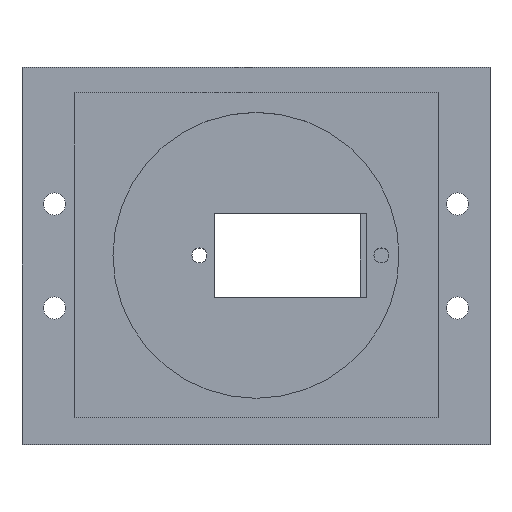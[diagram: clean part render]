
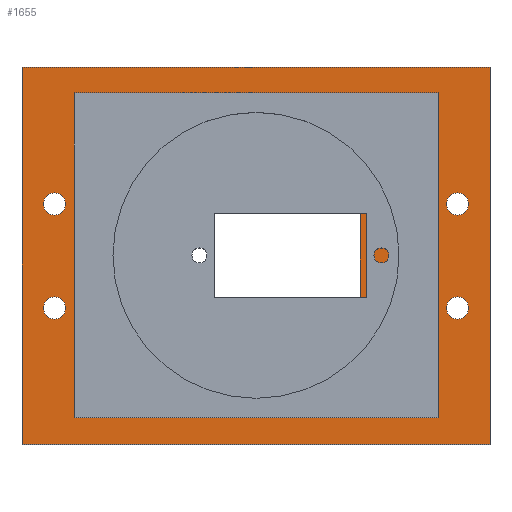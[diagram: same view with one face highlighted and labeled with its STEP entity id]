
A CAD part, top view. The second image highlights one B-rep face of the part: STEP entity #1655.
In plain terms, the highlighted planar face has unit normal (0, 0, 1).
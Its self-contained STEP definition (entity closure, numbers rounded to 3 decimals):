
#1275 = EDGE_CURVE('',#1276,#1278,#1280,.T.);
#1276 = VERTEX_POINT('',#1277);
#1277 = CARTESIAN_POINT('',(19.,5.,4.));
#1278 = VERTEX_POINT('',#1279);
#1279 = CARTESIAN_POINT('',(9.,5.,4.));
#1280 = LINE('',#1281,#1282);
#1281 = CARTESIAN_POINT('',(4.5,5.,4.));
#1282 = VECTOR('',#1283,1.);
#1283 = DIRECTION('',(-1.,-0.,0.));
#1307 = EDGE_CURVE('',#1276,#1308,#1310,.T.);
#1308 = VERTEX_POINT('',#1309);
#1309 = CARTESIAN_POINT('',(19.,15.,4.));
#1310 = LINE('',#1311,#1312);
#1311 = CARTESIAN_POINT('',(19.,2.5,4.));
#1312 = VECTOR('',#1313,1.);
#1313 = DIRECTION('',(-0.,1.,0.));
#1331 = EDGE_CURVE('',#1278,#1332,#1334,.T.);
#1332 = VERTEX_POINT('',#1333);
#1333 = CARTESIAN_POINT('',(9.,15.,4.));
#1334 = LINE('',#1335,#1336);
#1335 = CARTESIAN_POINT('',(9.,2.5,4.));
#1336 = VECTOR('',#1337,1.);
#1337 = DIRECTION('',(-0.,1.,0.));
#1354 = EDGE_CURVE('',#1308,#1332,#1355,.T.);
#1355 = LINE('',#1356,#1357);
#1356 = CARTESIAN_POINT('',(4.5,15.,4.));
#1357 = VECTOR('',#1358,1.);
#1358 = DIRECTION('',(-1.,-0.,0.));
#1371 = EDGE_CURVE('',#1372,#1374,#1376,.T.);
#1372 = VERTEX_POINT('',#1373);
#1373 = CARTESIAN_POINT('',(63.,5.,4.));
#1374 = VERTEX_POINT('',#1375);
#1375 = CARTESIAN_POINT('',(53.,5.,4.));
#1376 = LINE('',#1377,#1378);
#1377 = CARTESIAN_POINT('',(26.5,5.,4.));
#1378 = VECTOR('',#1379,1.);
#1379 = DIRECTION('',(-1.,-0.,0.));
#1403 = EDGE_CURVE('',#1372,#1404,#1406,.T.);
#1404 = VERTEX_POINT('',#1405);
#1405 = CARTESIAN_POINT('',(63.,15.,4.));
#1406 = LINE('',#1407,#1408);
#1407 = CARTESIAN_POINT('',(63.,2.5,4.));
#1408 = VECTOR('',#1409,1.);
#1409 = DIRECTION('',(-0.,1.,0.));
#1427 = EDGE_CURVE('',#1374,#1428,#1430,.T.);
#1428 = VERTEX_POINT('',#1429);
#1429 = CARTESIAN_POINT('',(53.,15.,4.));
#1430 = LINE('',#1431,#1432);
#1431 = CARTESIAN_POINT('',(53.,2.5,4.));
#1432 = VECTOR('',#1433,1.);
#1433 = DIRECTION('',(-0.,1.,0.));
#1450 = EDGE_CURVE('',#1404,#1428,#1451,.T.);
#1451 = LINE('',#1452,#1453);
#1452 = CARTESIAN_POINT('',(26.5,15.,4.));
#1453 = VECTOR('',#1454,1.);
#1454 = DIRECTION('',(-1.,-0.,0.));
#1467 = EDGE_CURVE('',#1468,#1470,#1472,.T.);
#1468 = VERTEX_POINT('',#1469);
#1469 = CARTESIAN_POINT('',(19.,43.,4.));
#1470 = VERTEX_POINT('',#1471);
#1471 = CARTESIAN_POINT('',(9.,43.,4.));
#1472 = LINE('',#1473,#1474);
#1473 = CARTESIAN_POINT('',(4.5,43.,4.));
#1474 = VECTOR('',#1475,1.);
#1475 = DIRECTION('',(-1.,-0.,0.));
#1499 = EDGE_CURVE('',#1468,#1500,#1502,.T.);
#1500 = VERTEX_POINT('',#1501);
#1501 = CARTESIAN_POINT('',(19.,53.,4.));
#1502 = LINE('',#1503,#1504);
#1503 = CARTESIAN_POINT('',(19.,21.5,4.));
#1504 = VECTOR('',#1505,1.);
#1505 = DIRECTION('',(-0.,1.,0.));
#1523 = EDGE_CURVE('',#1470,#1524,#1526,.T.);
#1524 = VERTEX_POINT('',#1525);
#1525 = CARTESIAN_POINT('',(9.,53.,4.));
#1526 = LINE('',#1527,#1528);
#1527 = CARTESIAN_POINT('',(9.,21.5,4.));
#1528 = VECTOR('',#1529,1.);
#1529 = DIRECTION('',(-0.,1.,0.));
#1546 = EDGE_CURVE('',#1500,#1524,#1547,.T.);
#1547 = LINE('',#1548,#1549);
#1548 = CARTESIAN_POINT('',(4.5,53.,4.));
#1549 = VECTOR('',#1550,1.);
#1550 = DIRECTION('',(-1.,-0.,0.));
#1563 = EDGE_CURVE('',#1564,#1566,#1568,.T.);
#1564 = VERTEX_POINT('',#1565);
#1565 = CARTESIAN_POINT('',(63.,43.,4.));
#1566 = VERTEX_POINT('',#1567);
#1567 = CARTESIAN_POINT('',(53.,43.,4.));
#1568 = LINE('',#1569,#1570);
#1569 = CARTESIAN_POINT('',(26.5,43.,4.));
#1570 = VECTOR('',#1571,1.);
#1571 = DIRECTION('',(-1.,-0.,0.));
#1595 = EDGE_CURVE('',#1564,#1596,#1598,.T.);
#1596 = VERTEX_POINT('',#1597);
#1597 = CARTESIAN_POINT('',(63.,53.,4.));
#1598 = LINE('',#1599,#1600);
#1599 = CARTESIAN_POINT('',(63.,21.5,4.));
#1600 = VECTOR('',#1601,1.);
#1601 = DIRECTION('',(-0.,1.,0.));
#1618 = EDGE_CURVE('',#1596,#1619,#1621,.T.);
#1619 = VERTEX_POINT('',#1620);
#1620 = CARTESIAN_POINT('',(53.,53.,4.));
#1621 = LINE('',#1622,#1623);
#1622 = CARTESIAN_POINT('',(26.5,53.,4.));
#1623 = VECTOR('',#1624,1.);
#1624 = DIRECTION('',(-1.,-0.,0.));
#1643 = EDGE_CURVE('',#1566,#1619,#1644,.T.);
#1644 = LINE('',#1645,#1646);
#1645 = CARTESIAN_POINT('',(53.,21.5,4.));
#1646 = VECTOR('',#1647,1.);
#1647 = DIRECTION('',(-0.,1.,0.));
#1655 = ADVANCED_FACE('',(#1656,#1690,#1696,#1707,#1713,#1724,#1735,
    #1741,#1775,#1786),#1792,.T.);
#1656 = FACE_BOUND('',#1657,.T.);
#1657 = EDGE_LOOP('',(#1658,#1668,#1676,#1684));
#1658 = ORIENTED_EDGE('',*,*,#1659,.F.);
#1659 = EDGE_CURVE('',#1660,#1662,#1664,.T.);
#1660 = VERTEX_POINT('',#1661);
#1661 = CARTESIAN_POINT('',(0.,0.,4.));
#1662 = VERTEX_POINT('',#1663);
#1663 = CARTESIAN_POINT('',(0.,58.,4.));
#1664 = LINE('',#1665,#1666);
#1665 = CARTESIAN_POINT('',(0.,0.,4.));
#1666 = VECTOR('',#1667,1.);
#1667 = DIRECTION('',(-0.,1.,0.));
#1668 = ORIENTED_EDGE('',*,*,#1669,.T.);
#1669 = EDGE_CURVE('',#1660,#1670,#1672,.T.);
#1670 = VERTEX_POINT('',#1671);
#1671 = CARTESIAN_POINT('',(72.,0.,4.));
#1672 = LINE('',#1673,#1674);
#1673 = CARTESIAN_POINT('',(0.,0.,4.));
#1674 = VECTOR('',#1675,1.);
#1675 = DIRECTION('',(1.,0.,-0.));
#1676 = ORIENTED_EDGE('',*,*,#1677,.T.);
#1677 = EDGE_CURVE('',#1670,#1678,#1680,.T.);
#1678 = VERTEX_POINT('',#1679);
#1679 = CARTESIAN_POINT('',(72.,58.,4.));
#1680 = LINE('',#1681,#1682);
#1681 = CARTESIAN_POINT('',(72.,0.,4.));
#1682 = VECTOR('',#1683,1.);
#1683 = DIRECTION('',(-0.,1.,0.));
#1684 = ORIENTED_EDGE('',*,*,#1685,.F.);
#1685 = EDGE_CURVE('',#1662,#1678,#1686,.T.);
#1686 = LINE('',#1687,#1688);
#1687 = CARTESIAN_POINT('',(0.,58.,4.));
#1688 = VECTOR('',#1689,1.);
#1689 = DIRECTION('',(1.,0.,-0.));
#1690 = FACE_BOUND('',#1691,.T.);
#1691 = EDGE_LOOP('',(#1692,#1693,#1694,#1695));
#1692 = ORIENTED_EDGE('',*,*,#1275,.T.);
#1693 = ORIENTED_EDGE('',*,*,#1331,.T.);
#1694 = ORIENTED_EDGE('',*,*,#1354,.F.);
#1695 = ORIENTED_EDGE('',*,*,#1307,.F.);
#1696 = FACE_BOUND('',#1697,.T.);
#1697 = EDGE_LOOP('',(#1698));
#1698 = ORIENTED_EDGE('',*,*,#1699,.F.);
#1699 = EDGE_CURVE('',#1700,#1700,#1702,.T.);
#1700 = VERTEX_POINT('',#1701);
#1701 = CARTESIAN_POINT('',(6.7,21.,4.));
#1702 = CIRCLE('',#1703,1.7);
#1703 = AXIS2_PLACEMENT_3D('',#1704,#1705,#1706);
#1704 = CARTESIAN_POINT('',(5.,21.,4.));
#1705 = DIRECTION('',(0.,0.,1.));
#1706 = DIRECTION('',(1.,0.,-0.));
#1707 = FACE_BOUND('',#1708,.T.);
#1708 = EDGE_LOOP('',(#1709,#1710,#1711,#1712));
#1709 = ORIENTED_EDGE('',*,*,#1371,.T.);
#1710 = ORIENTED_EDGE('',*,*,#1427,.T.);
#1711 = ORIENTED_EDGE('',*,*,#1450,.F.);
#1712 = ORIENTED_EDGE('',*,*,#1403,.F.);
#1713 = FACE_BOUND('',#1714,.T.);
#1714 = EDGE_LOOP('',(#1715));
#1715 = ORIENTED_EDGE('',*,*,#1716,.F.);
#1716 = EDGE_CURVE('',#1717,#1717,#1719,.T.);
#1717 = VERTEX_POINT('',#1718);
#1718 = CARTESIAN_POINT('',(68.7,21.,4.));
#1719 = CIRCLE('',#1720,1.7);
#1720 = AXIS2_PLACEMENT_3D('',#1721,#1722,#1723);
#1721 = CARTESIAN_POINT('',(67.,21.,4.));
#1722 = DIRECTION('',(0.,0.,1.));
#1723 = DIRECTION('',(1.,0.,-0.));
#1724 = FACE_BOUND('',#1725,.T.);
#1725 = EDGE_LOOP('',(#1726));
#1726 = ORIENTED_EDGE('',*,*,#1727,.F.);
#1727 = EDGE_CURVE('',#1728,#1728,#1730,.T.);
#1728 = VERTEX_POINT('',#1729);
#1729 = CARTESIAN_POINT('',(6.7,37.,4.));
#1730 = CIRCLE('',#1731,1.7);
#1731 = AXIS2_PLACEMENT_3D('',#1732,#1733,#1734);
#1732 = CARTESIAN_POINT('',(5.,37.,4.));
#1733 = DIRECTION('',(0.,0.,1.));
#1734 = DIRECTION('',(1.,0.,-0.));
#1735 = FACE_BOUND('',#1736,.T.);
#1736 = EDGE_LOOP('',(#1737,#1738,#1739,#1740));
#1737 = ORIENTED_EDGE('',*,*,#1467,.T.);
#1738 = ORIENTED_EDGE('',*,*,#1523,.T.);
#1739 = ORIENTED_EDGE('',*,*,#1546,.F.);
#1740 = ORIENTED_EDGE('',*,*,#1499,.F.);
#1741 = FACE_BOUND('',#1742,.T.);
#1742 = EDGE_LOOP('',(#1743,#1753,#1761,#1769));
#1743 = ORIENTED_EDGE('',*,*,#1744,.T.);
#1744 = EDGE_CURVE('',#1745,#1747,#1749,.T.);
#1745 = VERTEX_POINT('',#1746);
#1746 = CARTESIAN_POINT('',(52.,16.,4.));
#1747 = VERTEX_POINT('',#1748);
#1748 = CARTESIAN_POINT('',(20.,16.,4.));
#1749 = LINE('',#1750,#1751);
#1750 = CARTESIAN_POINT('',(10.,16.,4.));
#1751 = VECTOR('',#1752,1.);
#1752 = DIRECTION('',(-1.,-0.,0.));
#1753 = ORIENTED_EDGE('',*,*,#1754,.T.);
#1754 = EDGE_CURVE('',#1747,#1755,#1757,.T.);
#1755 = VERTEX_POINT('',#1756);
#1756 = CARTESIAN_POINT('',(20.,42.,4.));
#1757 = LINE('',#1758,#1759);
#1758 = CARTESIAN_POINT('',(20.,8.,4.));
#1759 = VECTOR('',#1760,1.);
#1760 = DIRECTION('',(-0.,1.,0.));
#1761 = ORIENTED_EDGE('',*,*,#1762,.F.);
#1762 = EDGE_CURVE('',#1763,#1755,#1765,.T.);
#1763 = VERTEX_POINT('',#1764);
#1764 = CARTESIAN_POINT('',(52.,42.,4.));
#1765 = LINE('',#1766,#1767);
#1766 = CARTESIAN_POINT('',(10.,42.,4.));
#1767 = VECTOR('',#1768,1.);
#1768 = DIRECTION('',(-1.,-0.,0.));
#1769 = ORIENTED_EDGE('',*,*,#1770,.F.);
#1770 = EDGE_CURVE('',#1745,#1763,#1771,.T.);
#1771 = LINE('',#1772,#1773);
#1772 = CARTESIAN_POINT('',(52.,8.,4.));
#1773 = VECTOR('',#1774,1.);
#1774 = DIRECTION('',(-0.,1.,0.));
#1775 = FACE_BOUND('',#1776,.T.);
#1776 = EDGE_LOOP('',(#1777));
#1777 = ORIENTED_EDGE('',*,*,#1778,.F.);
#1778 = EDGE_CURVE('',#1779,#1779,#1781,.T.);
#1779 = VERTEX_POINT('',#1780);
#1780 = CARTESIAN_POINT('',(68.7,37.,4.));
#1781 = CIRCLE('',#1782,1.7);
#1782 = AXIS2_PLACEMENT_3D('',#1783,#1784,#1785);
#1783 = CARTESIAN_POINT('',(67.,37.,4.));
#1784 = DIRECTION('',(0.,0.,1.));
#1785 = DIRECTION('',(1.,0.,-0.));
#1786 = FACE_BOUND('',#1787,.T.);
#1787 = EDGE_LOOP('',(#1788,#1789,#1790,#1791));
#1788 = ORIENTED_EDGE('',*,*,#1563,.T.);
#1789 = ORIENTED_EDGE('',*,*,#1643,.T.);
#1790 = ORIENTED_EDGE('',*,*,#1618,.F.);
#1791 = ORIENTED_EDGE('',*,*,#1595,.F.);
#1792 = PLANE('',#1793);
#1793 = AXIS2_PLACEMENT_3D('',#1794,#1795,#1796);
#1794 = CARTESIAN_POINT('',(0.,0.,4.));
#1795 = DIRECTION('',(0.,0.,1.));
#1796 = DIRECTION('',(1.,0.,-0.));
